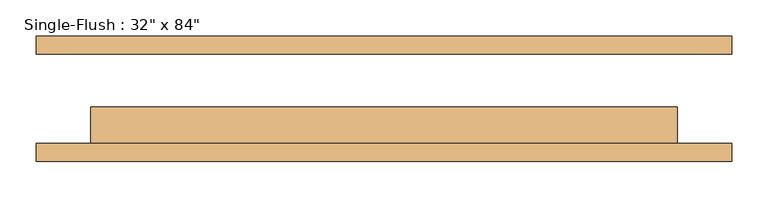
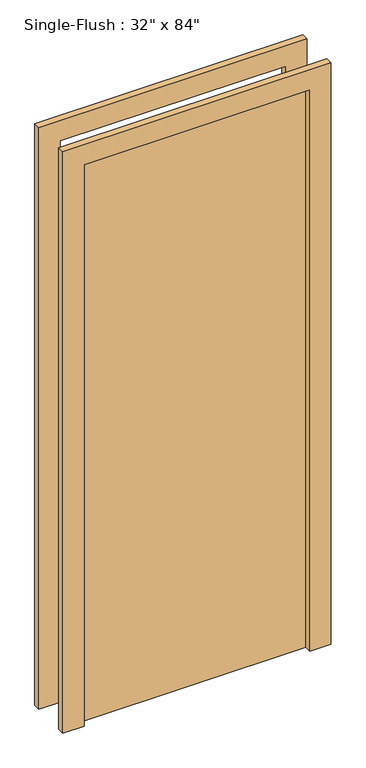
"""IFC4 building model written with IfcOpenShell, lengths in millimetres: door geometry."""

from ifc_helpers import new_model, si_unit, frame, origin, origin_with_axes, place, context, project, spatial, polyline, outline, extrude, source, transform, mapped, element, save


def door_d21431a2(model_context):
    return source(origin(), model_context, "Body", "SweptSolid", [
        extrude(outline(polyline([(2209.8, -482.6), (0.0, -482.6), (0.0, -406.4), (2133.6, -406.4), (2133.6, 406.4), (0.0, 406.4), (0.0, 482.6), (2209.8, 482.6), (2209.8, -482.6)])), frame((0.0, -87.3125, 0.0), z_axis=(0.0, 1.0, 0.0), x_axis=(0.0, 0.0, 1.0)), (0.0, 0.0, 1.0), 25.4),
        extrude(outline(polyline([(2209.8, 482.6), (2209.8, -482.6), (0.0, -482.6), (0.0, -406.4), (2133.6, -406.4), (2133.6, 406.4), (0.0, 406.4), (0.0, 482.6), (2209.8, 482.6)])), frame((0.0, 61.9125, 0.0), z_axis=(0.0, 1.0, 0.0), x_axis=(0.0, 0.0, 1.0)), (0.0, 0.0, 1.0), 25.4),
        extrude(outline(polyline([(406.4, -11.1125), (406.4, -61.9125), (-406.4, -61.9125), (-406.4, -11.1125), (406.4, -11.1125)])), origin_with_axes(), (0.0, 0.0, 1.0), 2133.6),
    ])


if __name__ == "__main__":
    model = new_model("IFC4")
    model_context = context("Model", 3, world=origin())
    ifc_project = project(units=[si_unit("LENGTHUNIT", "METRE", prefix="MILLI")], contexts=[model_context])
    site = spatial("IfcSite", under=ifc_project)
    building = spatial("IfcBuilding", under=site)
    placement = place(None, origin())
    door_shape = door_d21431a2(model_context)
    element("IfcDoor", 1, ObjectType="Single-Flush : 32\" x 84\"", at=placement, inside=building, context=model_context, shape_type="MappedRepresentation", body=[
        mapped(door_shape, transform((0.0, 0.0, 0.0), x_axis=(1.0, 0.0, 0.0), y_axis=(0.0, 1.0, 0.0), z_axis=(0.0, 0.0, 1.0))),
    ])
    save(model, "model.ifc")
